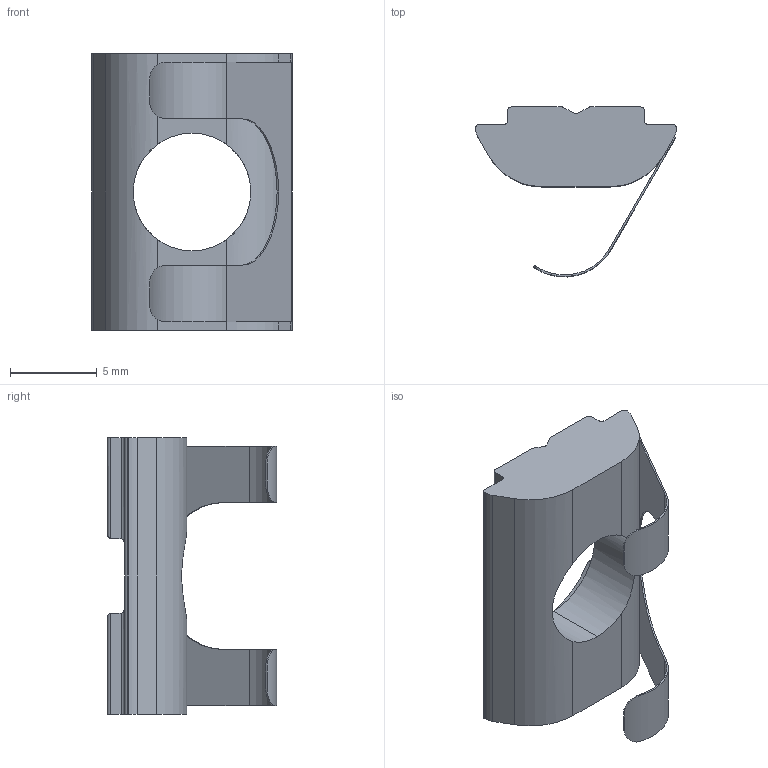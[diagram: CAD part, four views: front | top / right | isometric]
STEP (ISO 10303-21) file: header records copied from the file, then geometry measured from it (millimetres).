
FILE_DESCRIPTION (( 'STEP AP214' ), '1' );
FILE_NAME ('096318f.STEP', '2012-02-22T09:36:03', ( 'de01pc046' ), ( 'Fath GmbH' ), 'SwSTEP 2.0', 'SolidWorks 2011', '' );
FILE_SCHEMA (( 'AUTOMOTIVE_DESIGN' ));
Length unit declared in the file: millimetre
Products named in the file (1): 096318f
Bounding box: 11.6 x 9.8 x 16 mm (x, y, z)
Volume: 501.7 mm3; surface area: 726.3 mm2
Topology: 1 solids, 1 shells, 65 faces, 188 edges, 124 vertices
Faces by surface type: cylinder 34, plane 31
Entity records: 2340 total; most frequent: CARTESIAN_POINT 578, ORIENTED_EDGE 376, DIRECTION 342, EDGE_CURVE 188, VERTEX_POINT 124, AXIS2_PLACEMENT_3D 116, VECTOR 110, LINE 110
